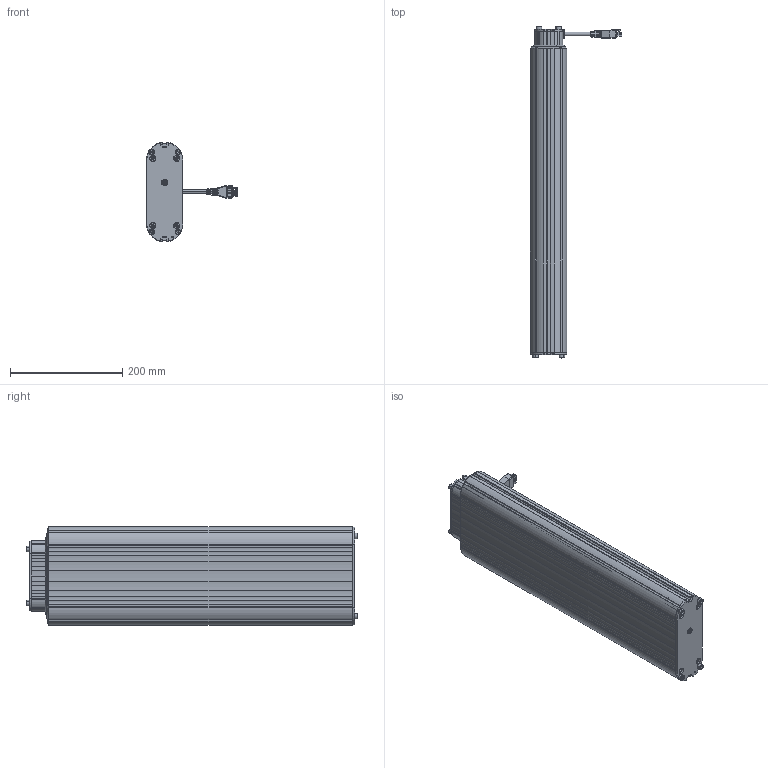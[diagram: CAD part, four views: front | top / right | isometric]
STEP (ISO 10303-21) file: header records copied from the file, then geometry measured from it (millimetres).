
FILE_DESCRIPTION (( 'STEP AP214' ), '1' );
FILE_NAME ('T 175K800580CCB24 (EZ02770).STEP', '2021-11-03T12:39:45', ( '' ), ( '' ), 'SwSTEP 2.0', 'SolidWorks 2020', '' );
FILE_SCHEMA (( 'AUTOMOTIVE_DESIGN' ));
Length unit declared in the file: millimetre
Products named in the file (17): vergossene Zugentlastung für Molex-Stecker 39-01-2080; 31.0.023_T175-3 EB580; EZ02631; countersunk flat head cross recess screw_1_1_din_ISO 7046-1 - M5 x 12 - Z --- 12N - St verz.; EZ02360_Einbau-Version kurz; T 175K800580CCB24 (EZ02770); MOLEX - 39-01-2080 - Buchsengehäuse 8-pol.; 31.0.025_L„nge: 542mm; 31.0.026_L„nge:525mm; Federscheibe f黵 M5-Federstahl-M5; 31.0.027_L„nge: 535,5mm; 31.0.002; 31.0.008; Kabel^EZ02360_L„nge: Einbau-Version kurz (100mm); 31.0.001; 31.0.007_Achsparallel; socket head cap screw_1_din_DIN 912 M6 x 16 --- 16N - 8.8 verz.
Assembly tree (25 placements, depth 3):
  T 175K800580CCB24 (EZ02770)
    31.0.023_T175-3 EB580
      31.0.025_L„nge: 542mm
      31.0.026_L„nge:525mm
      31.0.027_L„nge: 535,5mm
      31.0.001
      31.0.002
    31.0.007_Achsparallel
    31.0.008
    EZ02631
    Federscheibe f黵 M5-Federstahl-M5
    socket head cap screw_1_din_DIN 912 M6 x 16 --- 16N - 8.8 verz.  x8
    countersunk flat head cross recess screw_1_1_din_ISO 7046-1 - M5 x 12 - Z --- 12N - St verz.  x3
    EZ02360_Einbau-Version kurz
      Kabel^EZ02360_L„nge: Einbau-Version kurz (100mm)
      MOLEX - 39-01-2080 - Buchsengehäuse 8-pol.
      vergossene Zugentlastung für Molex-Stecker 39-01-2080
Bounding box: 162.36 x 592.25 x 175 mm (x, y, z)
Volume: 1637210.4 mm3; surface area: 1466239.2 mm2
Topology: 23 solids, 23 shells, 2182 faces, 5867 edges, 3734 vertices
Faces by surface type: cylinder 904, plane 876, cone 150, bspline 120, torus 106, sphere 26
Entity records: 70471 total; most frequent: CARTESIAN_POINT 18913, DIRECTION 10806, ORIENTED_EDGE 10738, EDGE_CURVE 5369, AXIS2_PLACEMENT_3D 3979, VERTEX_POINT 3451, LINE 2848, VECTOR 2848
